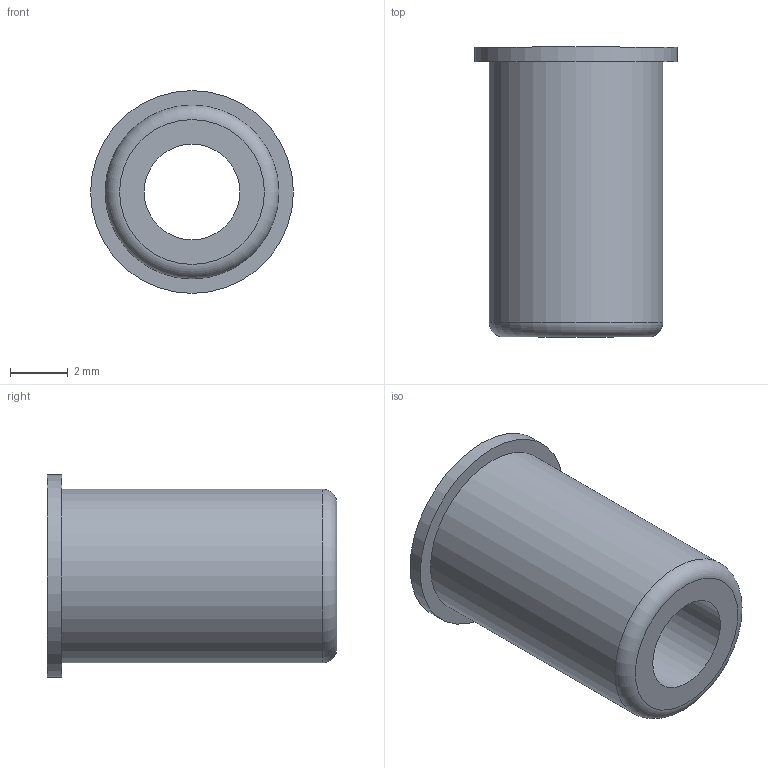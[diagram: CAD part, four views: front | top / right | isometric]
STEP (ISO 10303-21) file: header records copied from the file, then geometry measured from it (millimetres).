
FILE_DESCRIPTION (( 'STEP AP214' ), '1' );
FILE_NAME ('F10184.step', '2024-12-03T16:14:22', ( '' ), ( '' ), 'SwSTEP 2.0', 'SolidWorks 2023', '' );
FILE_SCHEMA (( 'AUTOMOTIVE_DESIGN' ));
Length unit declared in the file: millimetre
Products named in the file (1): F10184
Bounding box: 7 x 10 x 7 mm (x, y, z)
Volume: 201.3 mm3; surface area: 349.4 mm2
Topology: 1 solids, 1 shells, 7 faces, 12 edges, 8 vertices
Faces by surface type: plane 3, cylinder 3, torus 1
Full cylindrical faces by diameter (mm): 3.3 x1, 6 x1, 7 x1
Entity records: 171 total; most frequent: DIRECTION 30, CARTESIAN_POINT 22, AXIS2_PLACEMENT_3D 15, EDGE_LOOP 14, ORIENTED_EDGE 14, FACE_OUTER_BOUND 11, CIRCLE 7, VERTEX_POINT 7
